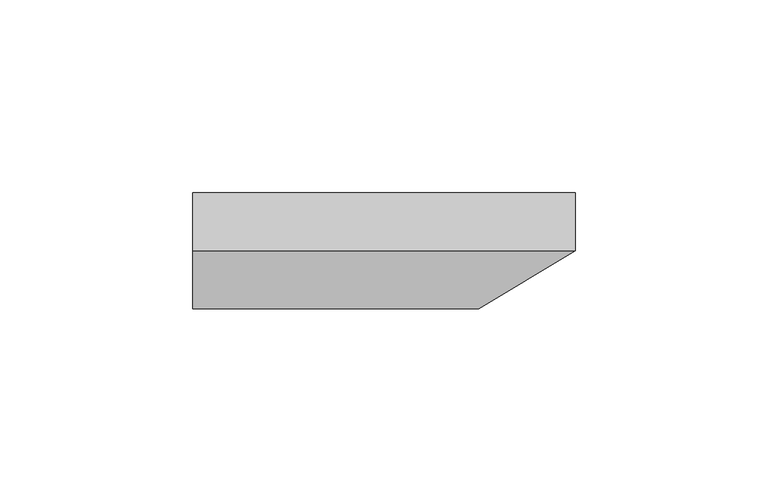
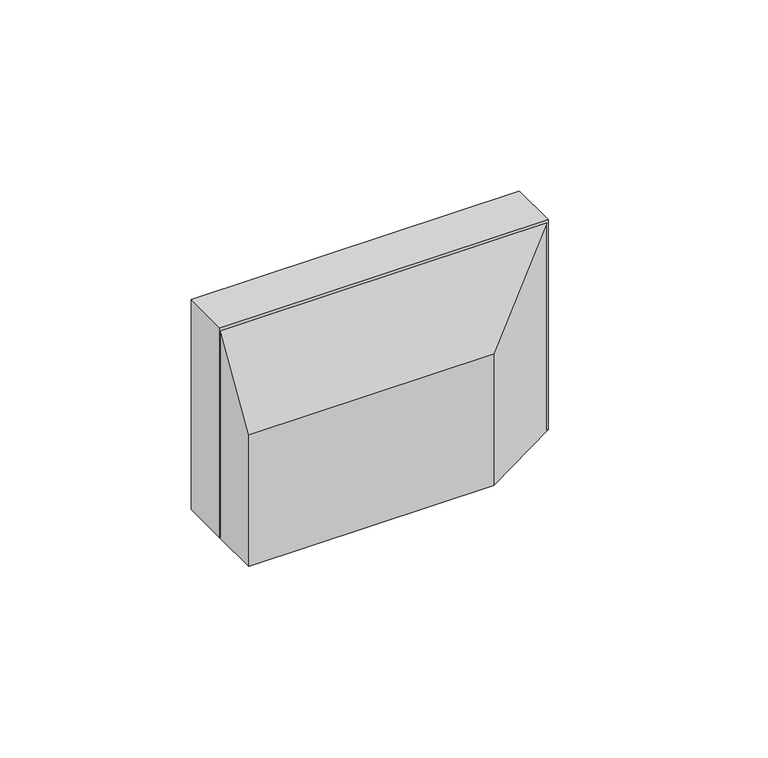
"""IFC4 building model written with IfcOpenShell, lengths in millimetres: duct fitting geometry, КНС_ВводВоВнутреннийБлокКондиционера_DKC : Правый."""

from ifc_helpers import new_model, si_unit, frame, origin, place, context, project, spatial, polyline, outline, extrude, faceted_brep, source, transform, mapped, element, save


def duct_fitting_1b4ae472(model_context):
    return source(origin(), model_context, "Body", "SolidModel", [
        extrude(outline(polyline([(62.0, 15.0), (-37.0, 15.0), (-37.0, 30.0), (62.0, 30.0), (62.0, 15.0)])), frame((0.0, 0.0, -20.0), z_axis=(0.0, 0.0, 1.0), x_axis=(1.0, 0.0, 0.0)), (0.0, 0.0, 1.0), 67.0),
        faceted_brep([(62.0, 15.0, 47.0), (62.0, 15.0, -20.0), (-37.0, 15.0, -20.0), (-37.0, 15.0, 47.0), (37.0, 0.0, 22.0), (-37.0, 0.0, 22.0), (-37.0, 0.0, -20.0), (37.0, 0.0, -20.0)], [[[0, 1, 2, 3]], [[4, 5, 6, 7]], [[5, 4, 0, 3]], [[6, 5, 3, 2]], [[7, 6, 2, 1]], [[4, 7, 1, 0]]]),
    ])


if __name__ == "__main__":
    model = new_model("IFC4")
    model_context = context("Model", 3, world=origin())
    ifc_project = project(units=[si_unit("LENGTHUNIT", "METRE", prefix="MILLI")], contexts=[model_context])
    site = spatial("IfcSite", under=ifc_project)
    building = spatial("IfcBuilding", under=site)
    placement = place(None, origin())
    duct_fitting_shape = duct_fitting_1b4ae472(model_context)
    element("IfcDuctFitting", 1, ObjectType="КНС_ВводВоВнутреннийБлокКондиционера_DKC : Правый", at=placement, inside=building, context=model_context, shape_type="MappedRepresentation", body=[
        mapped(duct_fitting_shape, transform((0.0, 0.0, 0.0), x_axis=(1.0, 0.0, 0.0), y_axis=(0.0, 1.0, 0.0), z_axis=(0.0, 0.0, 1.0))),
    ])
    save(model, "model.ifc")
